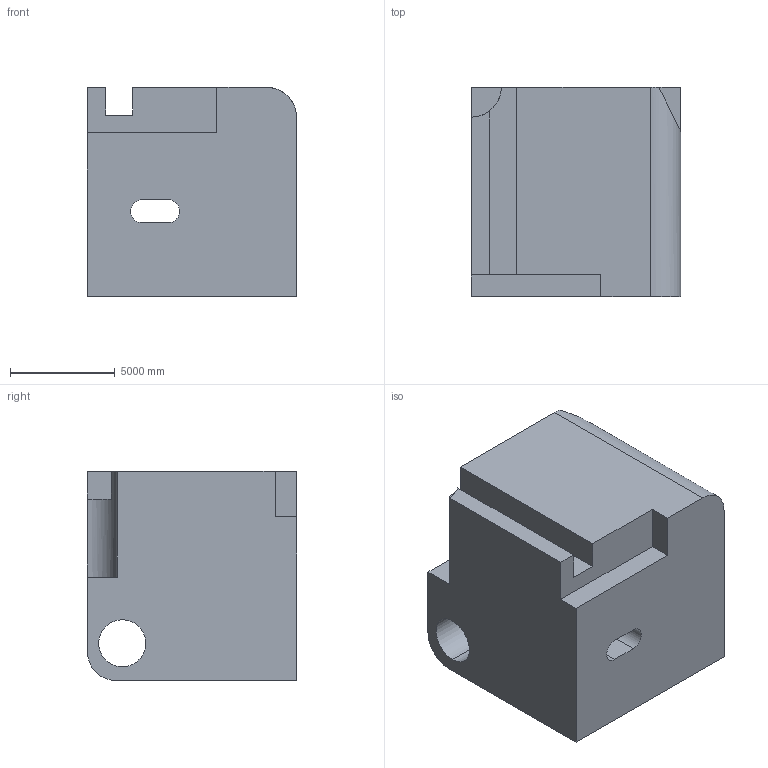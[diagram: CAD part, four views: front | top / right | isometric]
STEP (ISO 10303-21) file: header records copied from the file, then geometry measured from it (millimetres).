
FILE_DESCRIPTION (( 'STEP AP203' ), '1' );
FILE_NAME ('753.STEP', '2022-08-04T15:47:40', ( 'user' ), ( '' ), 'SwSTEP 2.0', 'SolidWorks 2021', '' );
FILE_SCHEMA (( 'CONFIG_CONTROL_DESIGN' ));
Length unit declared in the file: centimetre
Products named in the file (1): 753
Bounding box: 10000 x 10000 x 10000 mm (x, y, z)
Volume: 884596001815.2 mm3; surface area: 714026297.5 mm2
Topology: 1 solids, 1 shells, 25 faces, 69 edges, 46 vertices
Faces by surface type: plane 18, cylinder 7
Entity records: 883 total; most frequent: CARTESIAN_POINT 144, ORIENTED_EDGE 138, DIRECTION 135, EDGE_CURVE 69, LINE 53, VECTOR 53, VERTEX_POINT 46, AXIS2_PLACEMENT_3D 41
